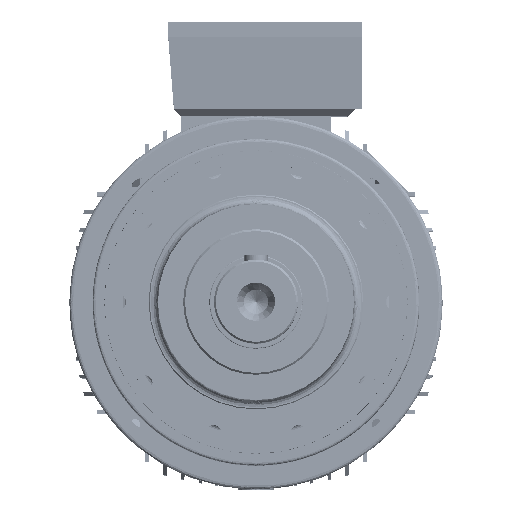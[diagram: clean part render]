
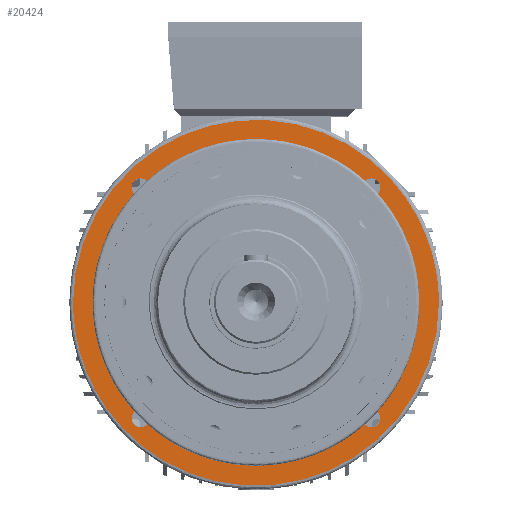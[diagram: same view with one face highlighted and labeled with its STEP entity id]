
A CAD part, top view. The second image highlights one B-rep face of the part: STEP entity #20424.
In plain terms, the highlighted planar face has unit normal (0, 0, 1).
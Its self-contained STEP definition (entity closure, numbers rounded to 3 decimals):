
#29 =( BOUNDED_CURVE ( )  B_SPLINE_CURVE ( 3, ( #137028, #137042, #137045, #137055 ),
 .UNSPECIFIED., .F., .F. ) 
 B_SPLINE_CURVE_WITH_KNOTS ( ( 4, 4 ),
 ( 0.5, 1. ),
 .UNSPECIFIED. ) 
 CURVE ( )  GEOMETRIC_REPRESENTATION_ITEM ( )  RATIONAL_B_SPLINE_CURVE ( ( 1., 0.333, 0.333, 1. ) ) 
 REPRESENTATION_ITEM ( '' )  );
#903 =( BOUNDED_CURVE ( )  B_SPLINE_CURVE ( 3, ( #33306, #33283, #33279, #33295 ),
 .UNSPECIFIED., .F., .F. ) 
 B_SPLINE_CURVE_WITH_KNOTS ( ( 4, 4 ),
 ( 0., 0.5 ),
 .UNSPECIFIED. ) 
 CURVE ( )  GEOMETRIC_REPRESENTATION_ITEM ( )  RATIONAL_B_SPLINE_CURVE ( ( 1., 0.333, 0.333, 1. ) ) 
 REPRESENTATION_ITEM ( '' )  );
#8024 = EDGE_LOOP ( 'NONE', ( #136085, #136199 ) ) ;
#8107 = EDGE_LOOP ( 'NONE', ( #138660, #138742 ) ) ;
#8121 = EDGE_LOOP ( 'NONE', ( #138688, #138731 ) ) ;
#8124 = EDGE_LOOP ( 'NONE', ( #136029, #136023 ) ) ;
#8170 = EDGE_LOOP ( 'NONE', ( #136051, #136119 ) ) ;
#8195 = EDGE_LOOP ( 'NONE', ( #136113, #136042 ) ) ;
#13039 = AXIS2_PLACEMENT_3D ( 'NONE', #39592, #39586, #39617 ) ;
#13044 = AXIS2_PLACEMENT_3D ( 'NONE', #39728, #39725, #39729 ) ;
#13168 = AXIS2_PLACEMENT_3D ( 'NONE', #40056, #40054, #40057 ) ;
#20424 = ADVANCED_FACE ( 'NONE', ( #162523, #162515, #162502, #162491, #162499, #162500 ), #165212, .T. ) ;
#24147 = AXIS2_PLACEMENT_3D ( 'NONE', #165150, #165209, #165169 ) ;
#25643 = EDGE_CURVE ( 'NONE', #143925, #143944, #51948, .T. ) ;
#25846 = EDGE_CURVE ( 'NONE', #143934, #143953, #52143, .T. ) ;
#33279 = CARTESIAN_POINT ( 'NONE',  ( -196., -392., -116.5 ) ) ;
#33283 = CARTESIAN_POINT ( 'NONE',  ( 196., -392., -116.5 ) ) ;
#33295 = CARTESIAN_POINT ( 'NONE',  ( -196., 0., -116.5 ) ) ;
#33306 = CARTESIAN_POINT ( 'NONE',  ( 196., 0., -116.5 ) ) ;
#34294 = CIRCLE ( 'NONE', #13039, 9.5 ) ;
#34453 = CIRCLE ( 'NONE', #13044, 9.5 ) ;
#34703 = CIRCLE ( 'NONE', #13168, 9.5 ) ;
#39586 = DIRECTION ( 'NONE',  ( 0., 0., -1. ) ) ;
#39592 = CARTESIAN_POINT ( 'NONE',  ( -123.744, 123.744, -116.5 ) ) ;
#39617 = DIRECTION ( 'NONE',  ( 0., 1., 0. ) ) ;
#39725 = DIRECTION ( 'NONE',  ( 0., 0., -1. ) ) ;
#39728 = CARTESIAN_POINT ( 'NONE',  ( 123.744, -123.744, -116.5 ) ) ;
#39729 = DIRECTION ( 'NONE',  ( 0., 1., 0. ) ) ;
#40054 = DIRECTION ( 'NONE',  ( 0., 0., -1. ) ) ;
#40056 = CARTESIAN_POINT ( 'NONE',  ( -123.744, -123.744, -116.5 ) ) ;
#40057 = DIRECTION ( 'NONE',  ( -1., 0., 0. ) ) ;
#50399 = CARTESIAN_POINT ( 'NONE',  ( -196., 0., -116.5 ) ) ;
#50805 = CARTESIAN_POINT ( 'NONE',  ( 123.744, -133.244, -116.5 ) ) ;
#50827 = CARTESIAN_POINT ( 'NONE',  ( -123.744, 114.244, -116.5 ) ) ;
#50832 = CARTESIAN_POINT ( 'NONE',  ( 123.744, -114.244, -116.5 ) ) ;
#50846 = CARTESIAN_POINT ( 'NONE',  ( -147., 0., -116.5 ) ) ;
#50852 = CARTESIAN_POINT ( 'NONE',  ( -123.744, 133.244, -116.5 ) ) ;
#50923 = CARTESIAN_POINT ( 'NONE',  ( 133.244, 123.744, -116.5 ) ) ;
#51019 = CARTESIAN_POINT ( 'NONE',  ( -133.244, -123.744, -116.5 ) ) ;
#51033 = CARTESIAN_POINT ( 'NONE',  ( 114.244, 123.744, -116.5 ) ) ;
#51049 = CARTESIAN_POINT ( 'NONE',  ( 147., 0., -116.5 ) ) ;
#51070 = CARTESIAN_POINT ( 'NONE',  ( -114.244, -123.744, -116.5 ) ) ;
#51948 = CIRCLE ( 'NONE', #60636, 9.5 ) ;
#52143 = CIRCLE ( 'NONE', #53761, 147. ) ;
#53761 = AXIS2_PLACEMENT_3D ( 'NONE', #68155, #68148, #68139 ) ;
#53816 = CARTESIAN_POINT ( 'NONE',  ( 196., 0., -116.5 ) ) ;
#53990 = AXIS2_PLACEMENT_3D ( 'NONE', #137207, #137175, #137099 ) ;
#54060 = AXIS2_PLACEMENT_3D ( 'NONE', #138021, #137989, #137971 ) ;
#54126 = AXIS2_PLACEMENT_3D ( 'NONE', #137838, #137884, #137887 ) ;
#54176 = AXIS2_PLACEMENT_3D ( 'NONE', #137821, #137816, #137913 ) ;
#54215 = AXIS2_PLACEMENT_3D ( 'NONE', #138004, #138013, #138011 ) ;
#60636 = AXIS2_PLACEMENT_3D ( 'NONE', #67718, #67719, #67721 ) ;
#67718 = CARTESIAN_POINT ( 'NONE',  ( 123.744, 123.744, -116.5 ) ) ;
#67719 = DIRECTION ( 'NONE',  ( 0., 0., -1. ) ) ;
#67721 = DIRECTION ( 'NONE',  ( -1., 0., 0. ) ) ;
#68139 = DIRECTION ( 'NONE',  ( -1., 0., 0. ) ) ;
#68148 = DIRECTION ( 'NONE',  ( 0., 0., -1. ) ) ;
#68155 = CARTESIAN_POINT ( 'NONE',  ( 0., 0., -116.5 ) ) ;
#78942 = EDGE_CURVE ( 'NONE', #143703, #143643, #29, .T. ) ;
#78943 = EDGE_CURVE ( 'NONE', #143930, #143919, #131732, .T. ) ;
#78991 = EDGE_CURVE ( 'NONE', #143953, #143934, #131911, .T. ) ;
#78998 = EDGE_CURVE ( 'NONE', #143935, #143929, #131899, .T. ) ;
#79003 = EDGE_CURVE ( 'NONE', #143944, #143925, #131905, .T. ) ;
#79009 = EDGE_CURVE ( 'NONE', #143941, #143940, #131890, .T. ) ;
#87731 = EDGE_CURVE ( 'NONE', #143643, #143703, #903, .T. ) ;
#88376 = EDGE_CURVE ( 'NONE', #143929, #143935, #34294, .T. ) ;
#88450 = EDGE_CURVE ( 'NONE', #143919, #143930, #34453, .T. ) ;
#88689 = EDGE_CURVE ( 'NONE', #143940, #143941, #34703, .T. ) ;
#131732 = CIRCLE ( 'NONE', #53990, 9.5 ) ;
#131890 = CIRCLE ( 'NONE', #54215, 9.5 ) ;
#131899 = CIRCLE ( 'NONE', #54176, 9.5 ) ;
#131905 = CIRCLE ( 'NONE', #54060, 9.5 ) ;
#131911 = CIRCLE ( 'NONE', #54126, 147. ) ;
#136023 = ORIENTED_EDGE ( 'NONE', *, *, #88450, .T. ) ;
#136029 = ORIENTED_EDGE ( 'NONE', *, *, #78943, .T. ) ;
#136042 = ORIENTED_EDGE ( 'NONE', *, *, #25643, .T. ) ;
#136051 = ORIENTED_EDGE ( 'NONE', *, *, #78998, .T. ) ;
#136085 = ORIENTED_EDGE ( 'NONE', *, *, #79009, .T. ) ;
#136113 = ORIENTED_EDGE ( 'NONE', *, *, #79003, .T. ) ;
#136119 = ORIENTED_EDGE ( 'NONE', *, *, #88376, .T. ) ;
#136199 = ORIENTED_EDGE ( 'NONE', *, *, #88689, .T. ) ;
#137028 = CARTESIAN_POINT ( 'NONE',  ( -196., 0., -116.5 ) ) ;
#137042 = CARTESIAN_POINT ( 'NONE',  ( -196., 392., -116.5 ) ) ;
#137045 = CARTESIAN_POINT ( 'NONE',  ( 196., 392., -116.5 ) ) ;
#137055 = CARTESIAN_POINT ( 'NONE',  ( 196., 0., -116.5 ) ) ;
#137099 = DIRECTION ( 'NONE',  ( 0., 1., 0. ) ) ;
#137175 = DIRECTION ( 'NONE',  ( 0., 0., -1. ) ) ;
#137207 = CARTESIAN_POINT ( 'NONE',  ( 123.744, -123.744, -116.5 ) ) ;
#137816 = DIRECTION ( 'NONE',  ( 0., 0., -1. ) ) ;
#137821 = CARTESIAN_POINT ( 'NONE',  ( -123.744, 123.744, -116.5 ) ) ;
#137838 = CARTESIAN_POINT ( 'NONE',  ( 0., 0., -116.5 ) ) ;
#137884 = DIRECTION ( 'NONE',  ( 0., 0., -1. ) ) ;
#137887 = DIRECTION ( 'NONE',  ( -1., 0., 0. ) ) ;
#137913 = DIRECTION ( 'NONE',  ( 0., 1., 0. ) ) ;
#137971 = DIRECTION ( 'NONE',  ( -1., 0., 0. ) ) ;
#137989 = DIRECTION ( 'NONE',  ( 0., 0., -1. ) ) ;
#138004 = CARTESIAN_POINT ( 'NONE',  ( -123.744, -123.744, -116.5 ) ) ;
#138011 = DIRECTION ( 'NONE',  ( -1., 0., 0. ) ) ;
#138013 = DIRECTION ( 'NONE',  ( 0., 0., -1. ) ) ;
#138021 = CARTESIAN_POINT ( 'NONE',  ( 123.744, 123.744, -116.5 ) ) ;
#138660 = ORIENTED_EDGE ( 'NONE', *, *, #25846, .T. ) ;
#138688 = ORIENTED_EDGE ( 'NONE', *, *, #87731, .F. ) ;
#138731 = ORIENTED_EDGE ( 'NONE', *, *, #78942, .F. ) ;
#138742 = ORIENTED_EDGE ( 'NONE', *, *, #78991, .T. ) ;
#143643 = VERTEX_POINT ( 'NONE', #53816 ) ;
#143703 = VERTEX_POINT ( 'NONE', #50399 ) ;
#143919 = VERTEX_POINT ( 'NONE', #50805 ) ;
#143925 = VERTEX_POINT ( 'NONE', #50923 ) ;
#143929 = VERTEX_POINT ( 'NONE', #50827 ) ;
#143930 = VERTEX_POINT ( 'NONE', #50832 ) ;
#143934 = VERTEX_POINT ( 'NONE', #50846 ) ;
#143935 = VERTEX_POINT ( 'NONE', #50852 ) ;
#143940 = VERTEX_POINT ( 'NONE', #51070 ) ;
#143941 = VERTEX_POINT ( 'NONE', #51019 ) ;
#143944 = VERTEX_POINT ( 'NONE', #51033 ) ;
#143953 = VERTEX_POINT ( 'NONE', #51049 ) ;
#162491 = FACE_BOUND ( 'NONE', #8024, .T. ) ;
#162499 = FACE_BOUND ( 'NONE', #8124, .T. ) ;
#162500 = FACE_BOUND ( 'NONE', #8195, .T. ) ;
#162502 = FACE_BOUND ( 'NONE', #8170, .T. ) ;
#162515 = FACE_OUTER_BOUND ( 'NONE', #8121, .T. ) ;
#162523 = FACE_BOUND ( 'NONE', #8107, .T. ) ;
#165150 = CARTESIAN_POINT ( 'NONE',  ( 0., 147., -116.5 ) ) ;
#165169 = DIRECTION ( 'NONE',  ( 1., 0., 0. ) ) ;
#165209 = DIRECTION ( 'NONE',  ( 0., 0., 1. ) ) ;
#165212 = PLANE ( 'NONE',  #24147 ) ;
